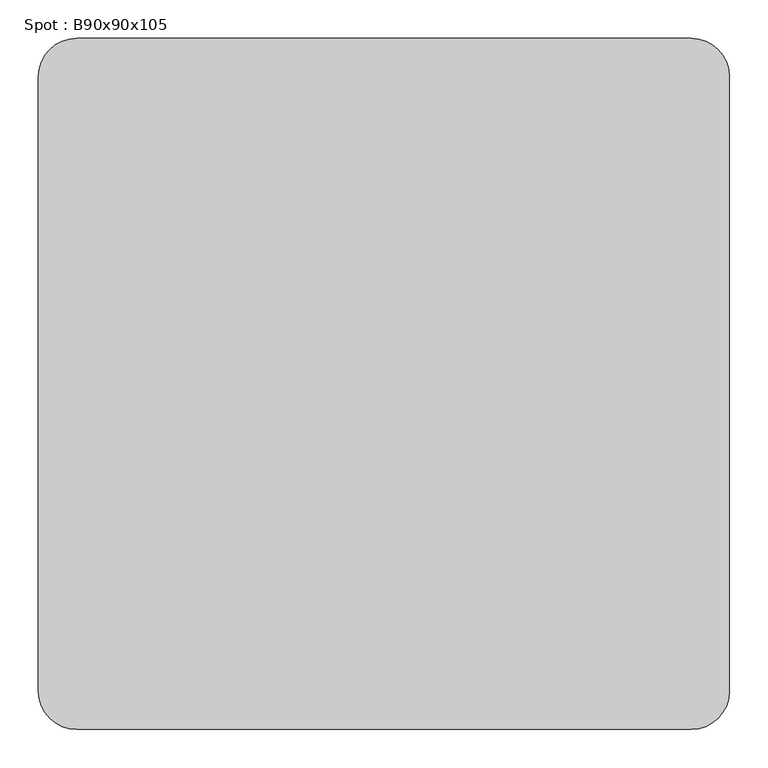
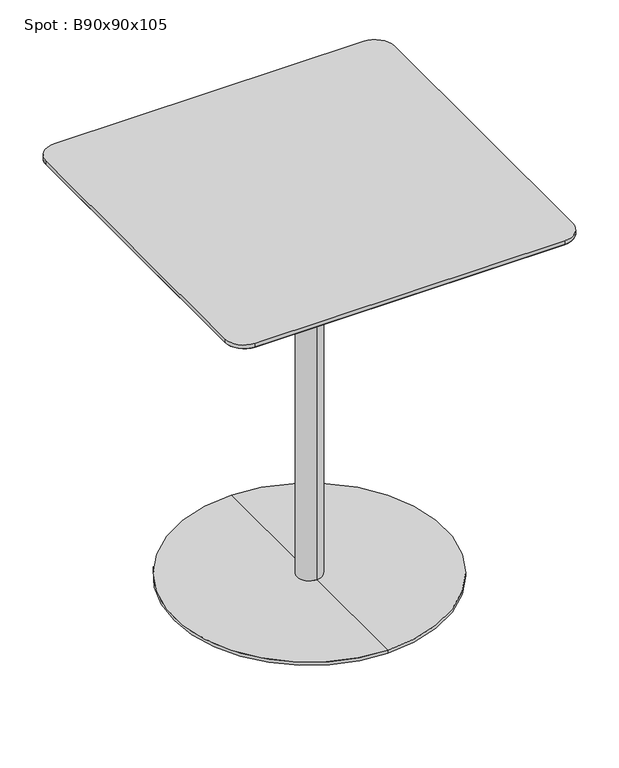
"""IFC4 building model written with IfcOpenShell, lengths in millimetres: furniture geometry, Spot : B90x90x105."""

from ifc_helpers import new_model, si_unit, point, frame, frame_2d, origin, place, context, project, spatial, polyline, circle_curve, trimmed, segment, composite_curve, outline, extrude, source, transform, mapped, element, save
from ifc_brep_helpers import plane_surface, cylinder_surface, revolved_surface, advanced_brep


def spot_b90x90x105_485e2d16(model_context):
    return source(origin(), model_context, "Body", "SolidModel", [
        advanced_brep(
        [(-400.0, -400.0, 1028.0), (-400.0, 400.0, 1028.0), (400.0, 400.0, 1028.0), (400.0, -400.0, 1028.0), (-450.0, -400.0, 1040.0), (-400.0, -450.0, 1040.0), (400.0, -450.0, 1040.0), (450.0, -400.0, 1040.0), (450.0, 400.0, 1040.0), (400.0, 450.0, 1040.0), (-400.0, 450.0, 1040.0), (-450.0, 400.0, 1040.0)],
        [
            (0, 1),
            (1, 2),
            (2, 3),
            (3, 0),
            (4, 5, circle_curve(frame((-400.0, -400.0, 1040.0), z_axis=(0.0, 0.0, 1.0), x_axis=(0.0, -1.0, 0.0)), 50.0)),
            (5, 6),
            (6, 7, circle_curve(frame((400.0, -400.0, 1040.0), z_axis=(0.0, 0.0, 1.0), x_axis=(1.0, 0.0, 0.0)), 50.0)),
            (7, 8),
            (8, 9, circle_curve(frame((400.0, 400.0, 1040.0), z_axis=(0.0, 0.0, 1.0), x_axis=(0.0, 1.0, 0.0)), 50.0)),
            (9, 10),
            (10, 11, circle_curve(frame((-400.0, 400.0, 1040.0), z_axis=(0.0, 0.0, 1.0), x_axis=(-1.0, 0.0, 0.0)), 50.0)),
            (11, 4),
            (4, 0),
            (0, 5),
            (3, 6),
            (3, 7),
            (2, 8),
            (2, 9),
            (1, 10),
            (1, 11),
        ],
        [
            plane_surface(frame((0.0, 0.0, 1028.0), z_axis=(0.0, 0.0, -1.0), x_axis=(-1.0, 0.0, 0.0))),
            plane_surface(frame((0.0, 0.0, 1040.0), z_axis=(0.0, 0.0, 1.0), x_axis=(-1.0, 0.0, 0.0))),
            revolved_surface(polyline([(-400.0, -400.0, 1028.0), (-400.0, -450.0, 1040.0)]), (-400.0, -400.0, 1028.0), (0.0, 0.0, 1.0)),
            plane_surface(frame((0.0, -450.0, 1040.0), z_axis=(0.0, -0.23337295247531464, -0.9723873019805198), x_axis=(-1.0, 0.0, 0.0))),
            revolved_surface(polyline([(400.0, -400.0, 1028.0), (450.0, -400.0, 1040.0)]), (400.0, -400.0, 1028.0), (0.0, 0.0, 1.0)),
            plane_surface(frame((450.0, 0.0, 1040.0), z_axis=(0.23337295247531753, 0.0, -0.9723873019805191), x_axis=(0.0, -1.0, 0.0))),
            revolved_surface(polyline([(400.0, 400.0, 1028.0), (400.0, 450.0, 1040.0)]), (400.0, 400.0, 1028.0), (0.0, 0.0, 1.0)),
            plane_surface(frame((0.0, 450.0, 1040.0), z_axis=(0.0, 0.2333729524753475, -0.9723873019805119), x_axis=(1.0, 0.0, 0.0))),
            revolved_surface(polyline([(-400.0, 400.0, 1028.0), (-450.0, 400.0, 1040.0)]), (-400.0, 400.0, 1028.0), (0.0, 0.0, 1.0)),
            plane_surface(frame((-450.0, 0.0, 1040.0), z_axis=(-0.2333729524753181, 0.0, -0.9723873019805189), x_axis=(0.0, 1.0, 0.0))),
        ],
        [
            (0, [[1, 2, 3, 4]]),
            (1, [[5, 6, 7, 8, 9, 10, 11, 12]]),
            (2, [[-5, 13, 14]]),
            (3, [[-6, -14, -4, 15]]),
            (4, [[-7, -15, 16]]),
            (5, [[-8, -16, -3, 17]]),
            (6, [[-9, -17, 18]]),
            (7, [[-10, -18, -2, 19]]),
            (8, [[-11, -19, 20]]),
            (9, [[-12, -20, -1, -13]]),
        ],
    ),
        extrude(outline(composite_curve([segment(trimmed(circle_curve(frame_2d((400.0, 400.0)), 50.0), [point((400.0, 450.0))], [point((450.0, 400.0))], False, "CARTESIAN"), True, "CONTINUOUS"), segment(polyline([(450.0, 400.0), (450.0, -400.0)]), True, "CONTINUOUS"), segment(trimmed(circle_curve(frame_2d((400.0, -400.0)), 50.0), [point((450.0, -400.0))], [point((400.0, -450.0))], False, "CARTESIAN"), True, "CONTINUOUS"), segment(polyline([(400.0, -450.0), (-400.0, -450.0)]), True, "CONTINUOUS"), segment(trimmed(circle_curve(frame_2d((-400.0, -400.0)), 50.0), [point((-400.0, -450.0))], [point((-450.0, -400.0))], False, "CARTESIAN"), True, "CONTINUOUS"), segment(polyline([(-450.0, -400.0), (-450.0, 400.0)]), True, "CONTINUOUS"), segment(trimmed(circle_curve(frame_2d((-400.0, 400.0)), 50.0), [point((-450.0, 400.0))], [point((-400.0, 450.0))], False, "CARTESIAN"), True, "CONTINUOUS"), segment(polyline([(-400.0, 450.0), (400.0, 450.0)]), True, "CONTINUOUS")], self_intersect=False)), frame((0.0, 0.0, 1040.0), z_axis=(0.0, 0.0, 1.0), x_axis=(1.0, 0.0, 0.0)), (0.0, 0.0, 1.0), 10.0),
        advanced_brep(
        [(0.0, 32.0, 10.0), (0.0, -32.0, 10.0), (0.0, -32.0, 997.406916), (0.0, 32.0, 997.406916), (0.0, 350.0, 10.0), (0.0, -350.0, 10.0), (0.0, 350.0, 2.0), (0.0, -350.0, 2.0), (0.0, 0.0, 2.0), (0.0, 150.0, 1028.0), (0.0, -150.0, 1028.0), (0.0, 0.0, 1028.0), (0.0, 150.0, 1016.7213673), (0.0, -150.0, 1016.7213673)],
        [
            (0, 1, circle_curve(frame((0.0, 0.0, 10.0), z_axis=(0.0, 0.0, 1.0), x_axis=(0.0, -1.0, 0.0)), 32.0)),
            (1, 2),
            (2, 3, circle_curve(frame((0.0, 0.0, 997.406916), z_axis=(0.0, 0.0, -1.0), x_axis=(0.0, -1.0, 0.0)), 32.0)),
            (3, 0),
            (1, 0, circle_curve(frame((0.0, 0.0, 10.0), z_axis=(0.0, 0.0, 1.0), x_axis=(0.0, -1.0, 0.0)), 32.0)),
            (3, 2, circle_curve(frame((0.0, 0.0, 997.406916), z_axis=(0.0, 0.0, -1.0), x_axis=(0.0, -1.0, 0.0)), 32.0)),
            (4, 5, circle_curve(frame((0.0, 0.0, 10.0), z_axis=(0.0, 0.0, 1.0), x_axis=(0.0, -1.0, 0.0)), 350.0)),
            (5, 1),
            (0, 4),
            (5, 4, circle_curve(frame((0.0, 0.0, 10.0), z_axis=(0.0, 0.0, 1.0), x_axis=(0.0, -1.0, 0.0)), 350.0)),
            (6, 7, circle_curve(frame((0.0, 0.0, 2.0), z_axis=(0.0, 0.0, 1.0), x_axis=(0.0, -1.0, 0.0)), 350.0)),
            (7, 5),
            (4, 6),
            (7, 6, circle_curve(frame((0.0, 0.0, 2.0), z_axis=(0.0, 0.0, 1.0), x_axis=(0.0, -1.0, 0.0)), 350.0)),
            (8, 7),
            (6, 8),
            (9, 10, circle_curve(frame((0.0, 0.0, 1028.0), z_axis=(0.0, 0.0, 1.0), x_axis=(0.0, -1.0, 0.0)), 150.0)),
            (10, 11),
            (11, 9),
            (10, 9, circle_curve(frame((0.0, 0.0, 1028.0), z_axis=(0.0, 0.0, 1.0), x_axis=(0.0, -1.0, 0.0)), 150.0)),
            (12, 13, circle_curve(frame((0.0, 0.0, 1016.7213673), z_axis=(0.0, 0.0, 1.0), x_axis=(0.0, -1.0, 0.0)), 150.0)),
            (13, 10),
            (9, 12),
            (13, 12, circle_curve(frame((0.0, 0.0, 1016.7213673), z_axis=(0.0, 0.0, 1.0), x_axis=(0.0, -1.0, 0.0)), 150.0)),
            (2, 13),
            (12, 3),
        ],
        [
            cylinder_surface(frame((0.0, 0.0, 1390.0), z_axis=(0.0, 0.0, -1.0), x_axis=(0.0, -1.0, 0.0)), 32.0),
            plane_surface(frame((0.0, 0.0, 10.0), z_axis=(0.0, 0.0, 1.0), x_axis=(0.0, -1.0, 0.0))),
            cylinder_surface(frame((0.0, 0.0, 1390.0), z_axis=(0.0, 0.0, -1.0), x_axis=(0.0, -1.0, 0.0)), 350.0),
            plane_surface(frame((0.0, 0.0, 2.0), z_axis=(0.0, 0.0, -1.0), x_axis=(0.0, -1.0, 0.0))),
            plane_surface(frame((0.0, 0.0, 1028.0), z_axis=(0.0, 0.0, 1.0), x_axis=(0.0, -1.0, 0.0))),
            cylinder_surface(frame((0.0, 0.0, 1390.0), z_axis=(0.0, 0.0, -1.0), x_axis=(0.0, -1.0, 0.0)), 150.0),
            revolved_surface(polyline([(0.0, -150.0, 1016.7213673), (0.0, -32.0, 997.406916)]), (0.0, 0.0, 1390.0), (0.0, 0.0, -1.0)),
        ],
        [
            (0, [[1, 2, 3, 4]]),
            (0, [[5, -4, 6, -2]]),
            (1, [[7, 8, -1, 9]]),
            (1, [[10, -9, -5, -8]]),
            (2, [[11, 12, -7, 13]]),
            (2, [[14, -13, -10, -12]]),
            (3, [[15, -11, 16]]),
            (3, [[-16, -14, -15]]),
            (4, [[17, 18, 19]]),
            (4, [[20, -19, -18]]),
            (5, [[21, 22, -17, 23]]),
            (5, [[24, -23, -20, -22]]),
            (6, [[-3, 25, -21, 26]]),
            (6, [[-6, -26, -24, -25]]),
        ],
    ),
    ])


if __name__ == "__main__":
    model = new_model("IFC4")
    model_context = context("Model", 3, world=origin())
    ifc_project = project(units=[si_unit("LENGTHUNIT", "METRE", prefix="MILLI")], contexts=[model_context])
    site = spatial("IfcSite", under=ifc_project)
    building = spatial("IfcBuilding", under=site)
    placement = place(None, origin())
    spot_b90x90x105_shape = spot_b90x90x105_485e2d16(model_context)
    element("IfcFurniture", 1, ObjectType="Spot : B90x90x105", at=placement, inside=building, context=model_context, shape_type="MappedRepresentation", body=[
        mapped(spot_b90x90x105_shape, transform((0.0, 0.0, 0.0), x_axis=(1.0, 0.0, 0.0), y_axis=(0.0, 1.0, 0.0), z_axis=(0.0, 0.0, 1.0))),
    ])
    save(model, "model.ifc")
